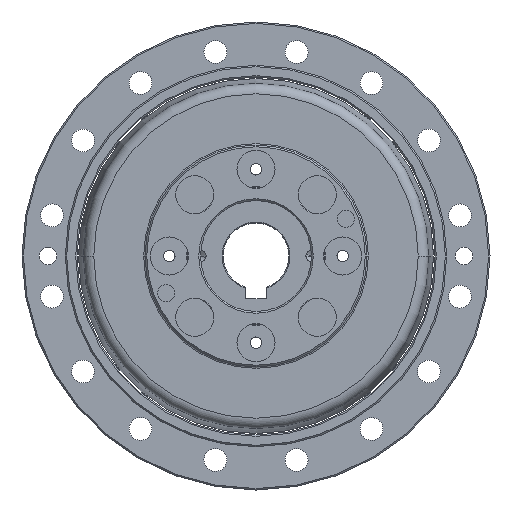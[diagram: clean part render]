
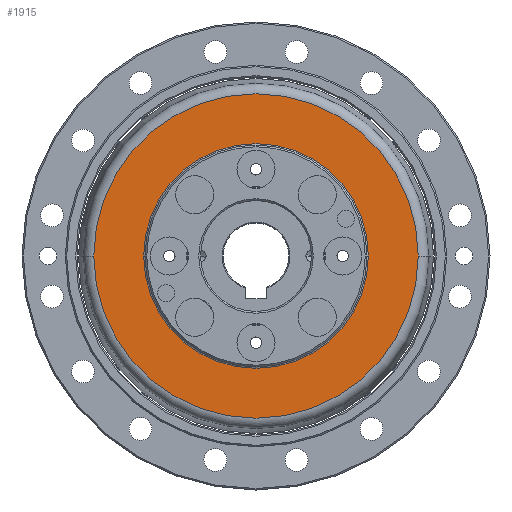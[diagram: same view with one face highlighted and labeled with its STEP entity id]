
A CAD part, left-side view. The second image highlights one B-rep face of the part: STEP entity #1915.
In plain terms, the highlighted planar face has unit normal (-1, 0, 0).
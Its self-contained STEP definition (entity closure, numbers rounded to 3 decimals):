
#228 = CARTESIAN_POINT ( 'NONE',  ( 3.298, -46.782, 0. ) ) ;
#262 = CARTESIAN_POINT ( 'NONE',  ( 3.298, -32.4, 0. ) ) ;
#692 = ORIENTED_EDGE ( 'NONE', *, *, #5100, .T. ) ;
#717 = CIRCLE ( 'NONE', #2469, 32.4 ) ;
#933 = DIRECTION ( 'NONE',  ( -1., 0., 0. ) ) ;
#1180 = EDGE_CURVE ( 'NONE', #9821, #7060, #717, .T. ) ;
#1588 = ORIENTED_EDGE ( 'NONE', *, *, #7723, .T. ) ;
#1637 = CIRCLE ( 'NONE', #10616, 46.782 ) ;
#1649 = CARTESIAN_POINT ( 'NONE',  ( 3.298, 0., 0. ) ) ;
#1850 = CARTESIAN_POINT ( 'NONE',  ( 3.298, 0., 0. ) ) ;
#1915 = ADVANCED_FACE ( 'NONE', ( #2524, #4510 ), #2486, .F. ) ;
#1934 = AXIS2_PLACEMENT_3D ( 'NONE', #7281, #6481, #5677 ) ;
#2469 = AXIS2_PLACEMENT_3D ( 'NONE', #8522, #933, #4246 ) ;
#2486 = PLANE ( 'NONE',  #9301 ) ;
#2492 = DIRECTION ( 'NONE',  ( 0., 1., 0. ) ) ;
#2494 = EDGE_LOOP ( 'NONE', ( #10698, #10068 ) ) ;
#2524 = FACE_BOUND ( 'NONE', #2494, .T. ) ;
#2592 = CIRCLE ( 'NONE', #6741, 46.782 ) ;
#2713 = DIRECTION ( 'NONE',  ( 0., 1., 0. ) ) ;
#3002 = CARTESIAN_POINT ( 'NONE',  ( 3.298, 32.4, 0. ) ) ;
#4096 = EDGE_CURVE ( 'NONE', #7060, #9821, #9037, .T. ) ;
#4246 = DIRECTION ( 'NONE',  ( 0., 1., 0. ) ) ;
#4496 = VERTEX_POINT ( 'NONE', #228 ) ;
#4510 = FACE_OUTER_BOUND ( 'NONE', #7606, .T. ) ;
#5100 = EDGE_CURVE ( 'NONE', #5400, #4496, #2592, .T. ) ;
#5400 = VERTEX_POINT ( 'NONE', #6491 ) ;
#5677 = DIRECTION ( 'NONE',  ( 0., 1., 0. ) ) ;
#6481 = DIRECTION ( 'NONE',  ( -1., 0., 0. ) ) ;
#6491 = CARTESIAN_POINT ( 'NONE',  ( 3.298, 46.782, 0. ) ) ;
#6741 = AXIS2_PLACEMENT_3D ( 'NONE', #1850, #7732, #2713 ) ;
#6831 = DIRECTION ( 'NONE',  ( 1., 0., 0. ) ) ;
#7060 = VERTEX_POINT ( 'NONE', #3002 ) ;
#7281 = CARTESIAN_POINT ( 'NONE',  ( 3.298, 0., 0. ) ) ;
#7517 = DIRECTION ( 'NONE',  ( -1., 0., 0. ) ) ;
#7606 = EDGE_LOOP ( 'NONE', ( #692, #1588 ) ) ;
#7723 = EDGE_CURVE ( 'NONE', #4496, #5400, #1637, .T. ) ;
#7732 = DIRECTION ( 'NONE',  ( -1., 0., 0. ) ) ;
#8522 = CARTESIAN_POINT ( 'NONE',  ( 3.298, 0., 0. ) ) ;
#8544 = CARTESIAN_POINT ( 'NONE',  ( 3.298, 0., -32.4 ) ) ;
#8996 = DIRECTION ( 'NONE',  ( 0., -1., 0. ) ) ;
#9037 = CIRCLE ( 'NONE', #1934, 32.4 ) ;
#9301 = AXIS2_PLACEMENT_3D ( 'NONE', #8544, #6831, #8996 ) ;
#9821 = VERTEX_POINT ( 'NONE', #262 ) ;
#10068 = ORIENTED_EDGE ( 'NONE', *, *, #1180, .F. ) ;
#10616 = AXIS2_PLACEMENT_3D ( 'NONE', #1649, #7517, #2492 ) ;
#10698 = ORIENTED_EDGE ( 'NONE', *, *, #4096, .F. ) ;
